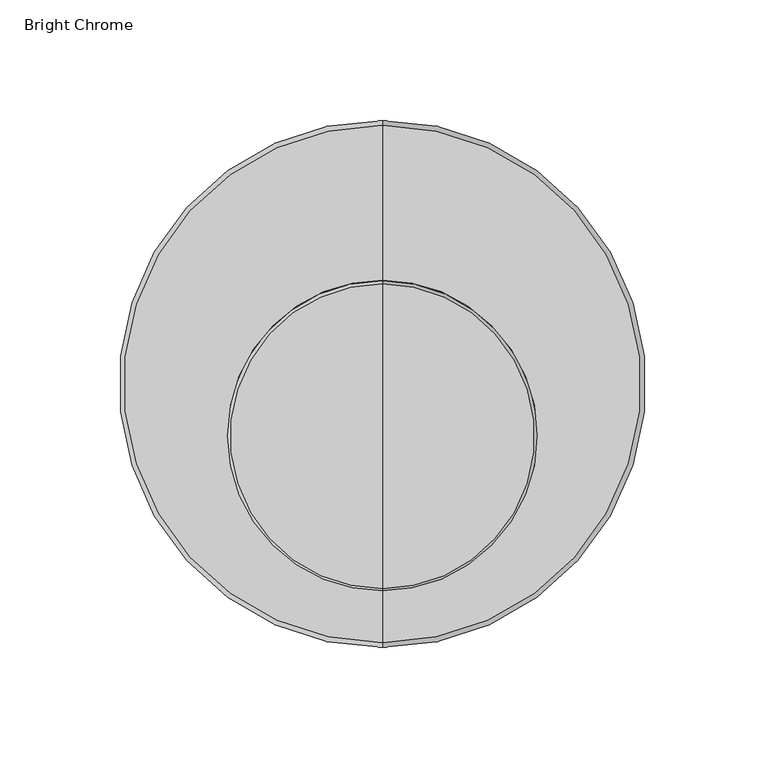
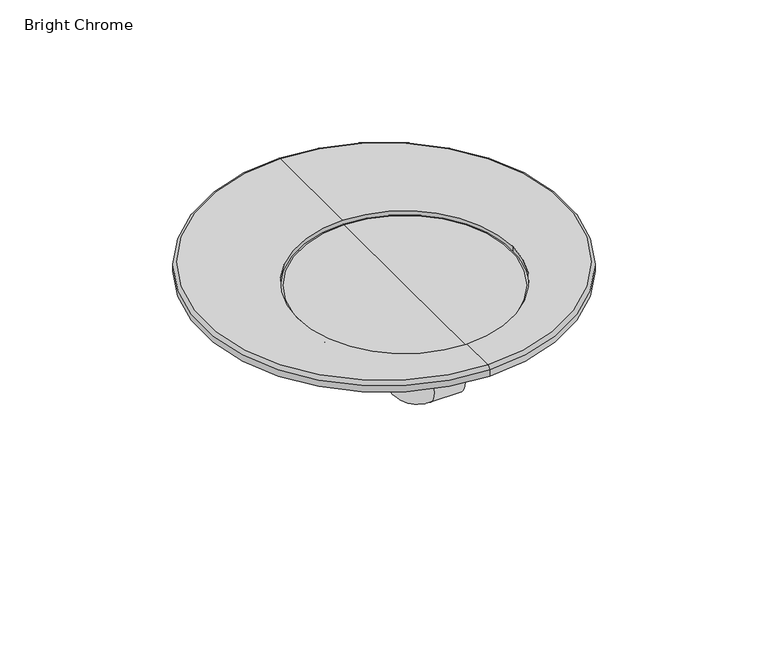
"""IFC4 building model written with IfcOpenShell, lengths in millimetres: flow terminal geometry, z_PlumFixt_Zenith_Font Industrial : Bright Chrome."""

from ifc_helpers import new_model, si_unit, point, frame, origin, place, context, project, spatial, polyline, circle_curve, ellipse_curve, trimmed, outline, extrude, source, transform, mapped, element, save
from ifc_brep_helpers import plane_surface, cylinder_surface, revolved_surface, advanced_brep


def bright_chrome_a5679dcf(model_context):
    return source(origin(), model_context, "Body", "SolidModel", [
        advanced_brep(
        [(1.0, 122.25, 5.9736354), (1.0, -92.25, 5.9736354), (1.0, -70.83804, 5.9736354), (-63.47, -6.36804, 5.9736354), (1.0, 58.10196, 5.9736354), (65.47, -6.36804, 5.9736354), (1.0, 124.25, 3.9736354), (1.0, -94.25, 3.9736354), (1.0, 124.25, 0.0), (1.0, -94.25, 0.0), (1.0, 15.0, 0.0), (65.47, -6.36804, 1.5304145), (-63.47, -6.36804, 1.5304145)],
        [
            (0, 1, circle_curve(frame((1.0, 15.0, 5.9736354), z_axis=(0.0, 0.0, 1.0), x_axis=(0.0, 1.0, 0.0)), 107.25)),
            (1, 2),
            (2, 3, circle_curve(frame((1.0, -6.36804, 5.9736354), z_axis=(0.0, 0.0, -1.0), x_axis=(-1.0, 0.0, 0.0)), 64.47)),
            (3, 4, circle_curve(frame((1.0, -6.36804, 5.9736354), z_axis=(0.0, 0.0, -1.0), x_axis=(-1.0, 0.0, 0.0)), 64.47)),
            (4, 0),
            (1, 0, circle_curve(frame((1.0, 15.0, 5.9736354), z_axis=(0.0, 0.0, 1.0), x_axis=(0.0, 1.0, 0.0)), 107.25)),
            (4, 5, circle_curve(frame((1.0, -6.36804, 5.9736354), z_axis=(0.0, 0.0, -1.0), x_axis=(-1.0, 0.0, 0.0)), 64.47)),
            (5, 2, circle_curve(frame((1.0, -6.36804, 5.9736354), z_axis=(0.0, 0.0, -1.0), x_axis=(-1.0, 0.0, 0.0)), 64.47)),
            (0, 6, circle_curve(frame((1.0, 122.25, 3.9736354), z_axis=(-1.0, 0.0, 0.0), x_axis=(0.0, 1.0, 0.0)), 2.0)),
            (6, 7, circle_curve(frame((1.0, 15.0, 3.9736354), z_axis=(0.0, 0.0, 1.0), x_axis=(0.0, 1.0, 0.0)), 109.25)),
            (7, 1, circle_curve(frame((1.0, -92.25, 3.9736354), z_axis=(-1.0, 0.0, 0.0), x_axis=(0.0, -1.0, 0.0)), 2.0)),
            (7, 6, circle_curve(frame((1.0, 15.0, 3.9736354), z_axis=(0.0, 0.0, 1.0), x_axis=(0.0, 1.0, 0.0)), 109.25)),
            (6, 8),
            (8, 9, circle_curve(frame((1.0, 15.0, 0.0), z_axis=(0.0, 0.0, 1.0), x_axis=(0.0, 1.0, 0.0)), 109.25)),
            (9, 7),
            (9, 8, circle_curve(frame((1.0, 15.0, 0.0), z_axis=(0.0, 0.0, 1.0), x_axis=(0.0, 1.0, 0.0)), 109.25)),
            (8, 10),
            (10, 9),
            (11, 12, circle_curve(frame((1.0, -6.36804, 1.5304145), z_axis=(0.0, 0.0, 1.0), x_axis=(-1.0, 0.0, 0.0)), 64.47)),
            (12, 11, circle_curve(frame((1.0, -6.36804, 1.5304145), z_axis=(0.0, 0.0, 1.0), x_axis=(-1.0, 0.0, 0.0)), 64.47)),
            (11, 5),
            (3, 12),
        ],
        [
            plane_surface(frame((1.0, 15.0, 5.9736354), z_axis=(0.0, 0.0, 1.0), x_axis=(0.0, 1.0, 0.0))),
            revolved_surface(trimmed(ellipse_curve(frame((1.0, 122.25, 3.9736354), z_axis=(1.0, 0.0, 0.0), x_axis=(0.0, 1.0, 0.0)), 2.0, 2.0), [point((1.0, 124.25, 3.9736354))], [point((1.0, 122.25, 5.9736354))], True, "CARTESIAN"), (1.0, 15.0, -1.0187212), (0.0, 0.0, 1.0)),
            cylinder_surface(frame((1.0, 15.0, -1.0187212), z_axis=(0.0, 0.0, 1.0), x_axis=(0.0, 1.0, 0.0)), 109.25),
            plane_surface(frame((1.0, 15.0, 0.0), z_axis=(0.0, 0.0, -1.0), x_axis=(0.0, 1.0, 0.0))),
            plane_surface(frame((-63.47, -6.36804, 1.5304145), z_axis=(0.0, 0.0, 1.0), x_axis=(0.0, 1.0, 0.0))),
            revolved_surface(polyline([(-63.47, -6.36804, 5.9736354), (-63.47, -6.36804, 1.5304145)]), (1.0, -6.36804, 1.5304145), (0.0, 0.0, 1.0)),
        ],
        [
            (0, [[1, 2, 3, 4, 5]]),
            (0, [[6, -5, 7, 8, -2]]),
            (1, [[-1, 9, 10, 11]]),
            (1, [[-6, -11, 12, -9]]),
            (2, [[-10, 13, 14, 15]]),
            (2, [[-12, -15, 16, -13]]),
            (3, [[-14, 17, 18]]),
            (3, [[-16, -18, -17]]),
            (4, [[19, 20]]),
            (5, [[-19, 21, -7, -4, 22]]),
            (5, [[-20, -22, -3, -8, -21]]),
        ],
    ),
        advanced_brep(
        [(1.0, -69.9244631, 4.249674), (1.0, 56.520588, 4.249674), (1.0, 56.520588, 1.749674), (1.0, -69.9244631, 1.749674), (1.0, -6.7019376, 1.749674), (1.0, -6.7019376, 4.249674)],
        [
            (0, 1, circle_curve(frame((1.0, -6.7019376, 4.249674), z_axis=(0.0, 0.0, -1.0), x_axis=(0.0, 1.0, 0.0)), 63.2225255)),
            (1, 2, circle_curve(frame((1.0, 56.520588, 2.999674), z_axis=(-1.0, 0.0, 0.0), x_axis=(0.0, 1.0, 0.0)), 1.25)),
            (2, 3, circle_curve(frame((1.0, -6.7019376, 1.749674), z_axis=(0.0, 0.0, 1.0), x_axis=(0.0, 1.0, 0.0)), 63.2225255)),
            (3, 0, circle_curve(frame((1.0, -69.9244631, 2.999674), z_axis=(-1.0, 0.0, 0.0), x_axis=(0.0, -1.0, 0.0)), 1.25)),
            (1, 0, circle_curve(frame((1.0, -6.7019376, 4.249674), z_axis=(0.0, 0.0, -1.0), x_axis=(0.0, 1.0, 0.0)), 63.2225255)),
            (3, 2, circle_curve(frame((1.0, -6.7019376, 1.749674), z_axis=(0.0, 0.0, 1.0), x_axis=(0.0, 1.0, 0.0)), 63.2225255)),
            (2, 4),
            (4, 3),
            (5, 1),
            (0, 5),
        ],
        [
            revolved_surface(trimmed(ellipse_curve(frame((1.0, 56.520588, 2.999674), z_axis=(1.0, 0.0, 0.0), x_axis=(0.0, 1.0, 0.0)), 1.25, 1.25), [point((1.0, 56.520588, 1.749674))], [point((1.0, 56.520588, 4.249674))], True, "CARTESIAN"), (1.0, -6.7019376, 0.0), (0.0, 0.0, 1.0)),
            plane_surface(frame((1.0, -6.7019376, 1.749674), z_axis=(0.0, 0.0, -1.0), x_axis=(0.0, 1.0, 0.0))),
            plane_surface(frame((1.0, -6.7019376, 4.249674), z_axis=(0.0, 0.0, 1.0), x_axis=(0.0, 1.0, 0.0))),
        ],
        [
            (0, [[1, 2, 3, 4]]),
            (0, [[5, -4, 6, -2]]),
            (1, [[-3, 7, 8]]),
            (1, [[-6, -8, -7]]),
            (2, [[9, -1, 10]]),
            (2, [[-10, -5, -9]]),
        ],
    ),
        advanced_brep(
        [(1.0, 17.6082756, -9.3040084), (1.0, -27.6082756, -9.3040084), (1.0, -56.6303223, 0.0), (1.0, 46.6303223, 0.0), (1.0, 16.5094946, -10.3549967), (1.0, -26.5094946, -10.3549967), (1.0, 16.3191004, -11.4347761), (1.0, -26.3191004, -11.4347761), (1.0, 15.3746862, -12.2272337), (1.0, -25.3746862, -12.2272337), (1.0, -5.0, -12.2272337), (1.0, -5.0, 0.0)],
        [
            (0, 1, circle_curve(frame((1.0, -5.0, -9.3040084), z_axis=(0.0, 0.0, 1.0), x_axis=(0.0, -1.0, 0.0)), 22.6082756)),
            (1, 2, circle_curve(frame((1.0, -16.5771103, 75.0218914), z_axis=(-1.0, 0.0, 0.0), x_axis=(0.0, 1.0, 0.0)), 85.0443648)),
            (2, 3, circle_curve(frame((1.0, -5.0, 0.0), z_axis=(0.0, 0.0, -1.0), x_axis=(0.0, -1.0, 0.0)), 51.6303223)),
            (3, 0, circle_curve(frame((1.0, 6.5771103, 75.0218914), z_axis=(-1.0, 0.0, 0.0), x_axis=(0.0, -1.0, 0.0)), 85.0443648)),
            (1, 0, circle_curve(frame((1.0, -5.0, -9.3040084), z_axis=(0.0, 0.0, 1.0), x_axis=(0.0, -1.0, 0.0)), 22.6082756)),
            (3, 2, circle_curve(frame((1.0, -5.0, 0.0), z_axis=(0.0, 0.0, -1.0), x_axis=(0.0, -1.0, 0.0)), 51.6303223)),
            (4, 5, circle_curve(frame((1.0, -5.0, -10.3549967), z_axis=(0.0, 0.0, 1.0), x_axis=(0.0, -1.0, 0.0)), 21.5094946)),
            (5, 1, circle_curve(frame((1.0, -27.774951, -10.5781308), z_axis=(1.0, 0.0, 0.0), x_axis=(0.0, 1.0, 0.0)), 1.2849781)),
            (0, 4, circle_curve(frame((1.0, 17.774951, -10.5781308), z_axis=(1.0, 0.0, 0.0), x_axis=(0.0, -1.0, 0.0)), 1.2849781)),
            (5, 4, circle_curve(frame((1.0, -5.0, -10.3549967), z_axis=(0.0, 0.0, 1.0), x_axis=(0.0, -1.0, 0.0)), 21.5094946)),
            (6, 7, circle_curve(frame((1.0, -5.0, -11.4347761), z_axis=(0.0, 0.0, 1.0), x_axis=(0.0, -1.0, 0.0)), 21.3191004)),
            (7, 5),
            (4, 6),
            (7, 6, circle_curve(frame((1.0, -5.0, -11.4347761), z_axis=(0.0, 0.0, 1.0), x_axis=(0.0, -1.0, 0.0)), 21.3191004)),
            (8, 9, circle_curve(frame((1.0, -5.0, -12.2272337), z_axis=(0.0, 0.0, 1.0), x_axis=(0.0, -1.0, 0.0)), 20.3746862)),
            (9, 7, circle_curve(frame((1.0, -25.3746862, -11.2682504), z_axis=(-1.0, 0.0, 0.0), x_axis=(0.0, 1.0, 0.0)), 0.9589833)),
            (6, 8, circle_curve(frame((1.0, 15.3746862, -11.2682504), z_axis=(-1.0, 0.0, 0.0), x_axis=(0.0, -1.0, 0.0)), 0.9589833)),
            (9, 8, circle_curve(frame((1.0, -5.0, -12.2272337), z_axis=(0.0, 0.0, 1.0), x_axis=(0.0, -1.0, 0.0)), 20.3746862)),
            (10, 9),
            (8, 10),
            (2, 11),
            (11, 3),
        ],
        [
            revolved_surface(trimmed(ellipse_curve(frame((1.0, -16.5771103, 75.0218914), z_axis=(1.0, 0.0, 0.0), x_axis=(0.0, 1.0, 0.0)), 85.0443648, 85.0443648), [point((1.0, -56.6303223, 0.0))], [point((1.0, -27.6082756, -9.3040084))], True, "CARTESIAN"), (1.0, -5.0, 0.0), (0.0, 0.0, -1.0)),
            revolved_surface(trimmed(ellipse_curve(frame((1.0, -27.774951, -10.5781308), z_axis=(-1.0, 0.0, 0.0), x_axis=(0.0, 1.0, 0.0)), 1.2849781, 1.2849781), [point((1.0, -27.6082756, -9.3040084))], [point((1.0, -26.5094946, -10.3549967))], True, "CARTESIAN"), (1.0, -5.0, 0.0), (0.0, 0.0, -1.0)),
            revolved_surface(polyline([(1.0, -26.5094946, -10.3549967), (1.0, -26.3191004, -11.4347761)]), (1.0, -5.0, 0.0), (0.0, 0.0, -1.0)),
            revolved_surface(trimmed(ellipse_curve(frame((1.0, -25.3746862, -11.2682504), z_axis=(1.0, 0.0, 0.0), x_axis=(0.0, 1.0, 0.0)), 0.9589833, 0.9589833), [point((1.0, -26.3191004, -11.4347761))], [point((1.0, -25.3746862, -12.2272337))], True, "CARTESIAN"), (1.0, -5.0, 0.0), (0.0, 0.0, -1.0)),
            plane_surface(frame((1.0, -5.0, -12.2272337), z_axis=(0.0, 0.0, -1.0), x_axis=(0.0, -1.0, 0.0))),
            plane_surface(frame((1.0, -5.0, 0.0), z_axis=(0.0, 0.0, 1.0), x_axis=(0.0, -1.0, 0.0))),
        ],
        [
            (0, [[1, 2, 3, 4]]),
            (0, [[5, -4, 6, -2]]),
            (1, [[7, 8, -1, 9]]),
            (1, [[10, -9, -5, -8]]),
            (2, [[11, 12, -7, 13]]),
            (2, [[14, -13, -10, -12]]),
            (3, [[15, 16, -11, 17]]),
            (3, [[18, -17, -14, -16]]),
            (4, [[19, -15, 20]]),
            (4, [[-20, -18, -19]]),
            (5, [[-3, 21, 22]]),
            (5, [[-6, -22, -21]]),
        ],
    ),
        extrude(outline(polyline([(-8.0700199, 10.0093191), (9.9254696, 10.0093191), (19.0513346, -5.5057892), (9.9254696, -21.0208976), (-8.0700199, -21.0208976), (-17.1958849, -5.5057892), (-8.0700199, 10.0093191)])), frame((0.0, 0.0, -21.18049), z_axis=(0.0, 0.0, 1.0), x_axis=(1.0, 0.0, 0.0)), (0.0, 0.0, 1.0), 9.0),
        advanced_brep(
        [(31.1519186, -5.8906809, -72.6140161), (31.1519186, -5.8906809, -51.1140161), (12.9277249, -5.8906809, -72.6140161), (12.9277249, -5.8906809, -51.1140161), (11.6777249, -5.8906809, -49.8640161), (-9.8222751, -5.8906809, -49.8640161), (-9.8222751, -5.8906809, -21.18049), (11.6777249, -5.8906809, -21.18049)],
        [
            (0, 1, circle_curve(frame((31.1519186, -5.8906809, -61.8640161), z_axis=(1.0, 0.0, 0.0), x_axis=(0.0, 0.0, 1.0)), 10.75)),
            (1, 0, circle_curve(frame((31.1519186, -5.8906809, -61.8640161), z_axis=(1.0, 0.0, 0.0), x_axis=(0.0, 0.0, 1.0)), 10.75)),
            (0, 2),
            (2, 3, circle_curve(frame((12.9277249, -5.8906809, -61.8640161), z_axis=(1.0, 0.0, 0.0), x_axis=(0.0, 0.0, 1.0)), 10.75)),
            (3, 1),
            (3, 2, circle_curve(frame((12.9277249, -5.8906809, -61.8640161), z_axis=(1.0, 0.0, 0.0), x_axis=(0.0, 0.0, 1.0)), 10.75)),
            (4, 3, circle_curve(frame((12.9277249, -5.8906809, -49.8640161), z_axis=(0.0, -1.0, 0.0), x_axis=(0.0, 0.0, -1.0)), 1.25)),
            (2, 5, circle_curve(frame((12.9277249, -5.8906809, -49.8640161), z_axis=(0.0, 1.0, 0.0), x_axis=(0.0, 0.0, -1.0)), 22.75)),
            (5, 4, circle_curve(frame((0.9277249, -5.8906809, -49.8640161), z_axis=(0.0, 0.0, -1.0), x_axis=(1.0, 0.0, 0.0)), 10.75)),
            (4, 5, circle_curve(frame((0.9277249, -5.8906809, -49.8640161), z_axis=(0.0, 0.0, -1.0), x_axis=(1.0, 0.0, 0.0)), 10.75)),
            (6, 7, circle_curve(frame((0.9277249, -5.8906809, -21.18049), z_axis=(0.0, 0.0, 1.0), x_axis=(1.0, 0.0, 0.0)), 10.75)),
            (7, 6, circle_curve(frame((0.9277249, -5.8906809, -21.18049), z_axis=(0.0, 0.0, 1.0), x_axis=(1.0, 0.0, 0.0)), 10.75)),
            (5, 6),
            (7, 4),
        ],
        [
            plane_surface(frame((31.1519186, 15.0, -61.8640161), z_axis=(1.0, 0.0, 0.0), x_axis=(0.0, 1.0, 0.0))),
            cylinder_surface(frame((31.1519186, -5.8906809, -61.8640161), z_axis=(1.0, 0.0, 0.0), x_axis=(0.0, 0.0, 1.0)), 10.75),
            revolved_surface(trimmed(ellipse_curve(frame((12.9277249, -5.8906809, -61.8640161), z_axis=(1.0, 0.0, 0.0), x_axis=(0.0, 0.0, 1.0)), 10.75, 10.75), [point((12.9277249, -5.8906809, -72.6140161))], [point((12.9277249, -5.8906809, -51.1140161))], True, "CARTESIAN"), (12.9277249, 15.0, -49.8640161), (0.0, 1.0, 0.0)),
            revolved_surface(trimmed(ellipse_curve(frame((12.9277249, -5.8906809, -61.8640161), z_axis=(1.0, 0.0, 0.0), x_axis=(0.0, 0.0, 1.0)), 10.75, 10.75), [point((12.9277249, -5.8906809, -51.1140161))], [point((12.9277249, -5.8906809, -72.6140161))], True, "CARTESIAN"), (12.9277249, 15.0, -49.8640161), (0.0, 1.0, 0.0)),
            plane_surface(frame((0.9277249, 15.0, -21.18049), z_axis=(0.0, 0.0, 1.0), x_axis=(0.0, 1.0, 0.0))),
            cylinder_surface(frame((0.9277249, -5.8906809, -49.8640161), z_axis=(0.0, 0.0, -1.0), x_axis=(1.0, 0.0, 0.0)), 10.75),
        ],
        [
            (0, [[1, 2]]),
            (1, [[-1, 3, 4, 5]]),
            (1, [[-2, -5, 6, -3]]),
            (2, [[7, -4, 8, 9]]),
            (3, [[-8, -6, -7, 10]]),
            (4, [[11, 12]]),
            (5, [[-9, 13, -12, 14]]),
            (5, [[-10, -14, -11, -13]]),
        ],
    ),
    ])


if __name__ == "__main__":
    model = new_model("IFC4")
    model_context = context("Model", 3, world=origin())
    ifc_project = project(units=[si_unit("LENGTHUNIT", "METRE", prefix="MILLI")], contexts=[model_context])
    site = spatial("IfcSite", under=ifc_project)
    building = spatial("IfcBuilding", under=site)
    placement = place(None, origin())
    bright_chrome_shape = bright_chrome_a5679dcf(model_context)
    element("IfcFlowTerminal", 1, ObjectType="z_PlumFixt_Zenith_Font Industrial : Bright Chrome", at=placement, inside=building, context=model_context, shape_type="MappedRepresentation", body=[
        mapped(bright_chrome_shape, transform((0.0, 0.0, 0.0), x_axis=(1.0, 0.0, 0.0), y_axis=(0.0, 1.0, 0.0), z_axis=(0.0, 0.0, 1.0))),
    ])
    save(model, "model.ifc")
